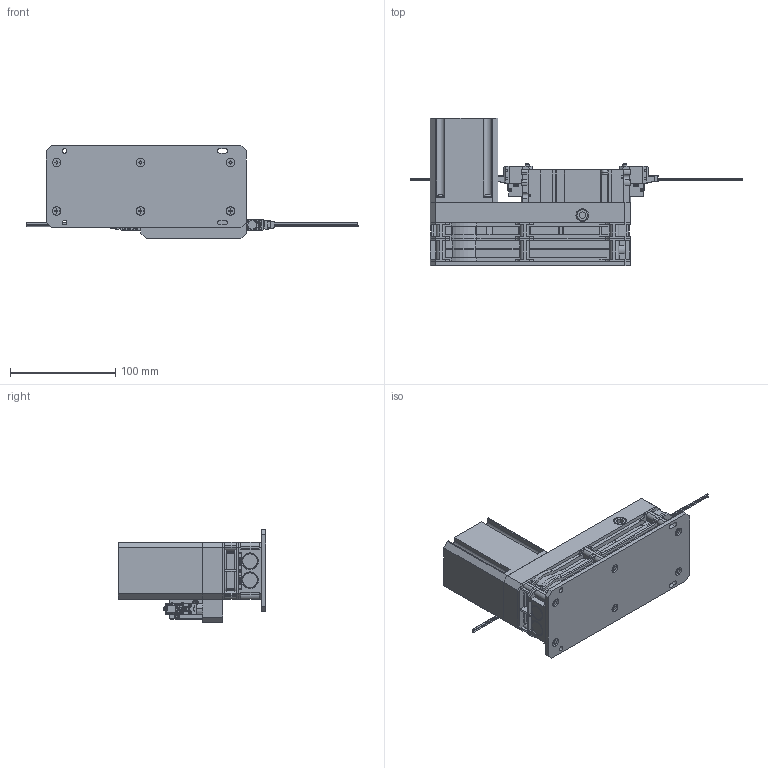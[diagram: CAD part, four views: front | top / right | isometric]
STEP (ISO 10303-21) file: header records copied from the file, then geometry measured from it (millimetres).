
FILE_DESCRIPTION(('STEP AP203'),'1');
FILE_NAME('BCVZ-1,2-ZSG-V_3D.stp','2024-08-30T09:18:18',(' '),(' '),'Spatial InterOp 3D',' ',' ');
FILE_SCHEMA(('CONFIG_CONTROL_DESIGN'));
Length unit declared in the file: millimetre
Products named in the file (22): BCVZ-1,2-ZSG-V; BCVZ-1,2-V-Z 공급베이스; CVZ-S_silencer; CZS-U2_unit; CVZ-U1_unit; BCVZ-B_base; NAUO3; NAUO7; NAUO8; NAUO9; BCVZ-1,2-V 밸브; NAUO6; NAUO4; NAUO5; PG2_____; NONE; 볼트
Assembly tree (25 placements, depth 4):
  BCVZ-1,2-ZSG-V
    BCVZ-1,2-V-Z 공급베이스
    CVZ-S_silencer
    CZS-U2_unit
    CVZ-U1_unit
    BCVZ-B_base
    BCVZ-1,2-V 밸브
      NAUO3  x2
        NAUO7
        NAUO8
        NAUO9
      NAUO6
      NAUO4
      NAUO5  x2
      PG2_____
        NONE  x2
        NONE
      볼트
      볼트
      PG2_____
        NONE  x2
        NONE
Bounding box: 315.2 x 140 x 88 mm (x, y, z)
Volume: 821744.9 mm3; surface area: 210509.2 mm2
Topology: 23 solids, 25 shells, 2409 faces, 6584 edges, 4342 vertices
Faces by surface type: plane 1576, cylinder 745, torus 50, cone 32, sphere 4, bspline 2
Full cylindrical faces by diameter (mm): 3.3 x2, 4 x6, 4.5 x2, 6.7 x2, 7 x4, 8 x9, 8.56 x1, 11.676 x1, 12 x2, 24 x1
Entity records: 65049 total; most frequent: CARTESIAN_POINT 12032, ORIENTED_EDGE 10858, DIRECTION 10820, EDGE_CURVE 5429, LINE 3852, VECTOR 3852, VERTEX_POINT 3625, AXIS2_PLACEMENT_3D 3484
